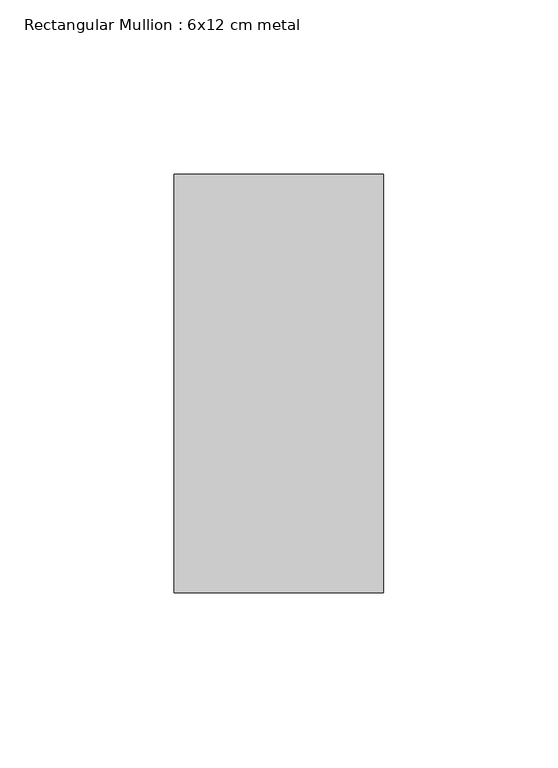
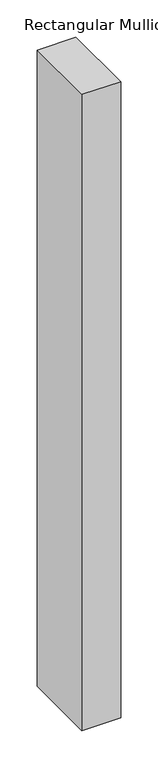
"""IFC4 building model written with IfcOpenShell, lengths in millimetres: member geometry, Rectangular Mullion : 6x12 cm metal."""

from ifc_helpers import new_model, si_unit, frame, origin, place, context, project, spatial, polyline, outline, extrude, source, transform, mapped, element, save


def rectangular_mullion_6x12_cm_metal_22fa1763(model_context):
    return source(origin(), model_context, "Body", "SweptSolid", [
        extrude(outline(polyline([(0.0, 60.0), (0.0, -60.0), (-60.0, -60.0), (-60.0, 60.0), (0.0, 60.0)])), frame((0.0, 0.0, -1044.2423059), z_axis=(0.0, 0.0, 1.0), x_axis=(1.0, 0.0, 0.0)), (0.0, 0.0, 1.0), 1044.2423059),
    ])


if __name__ == "__main__":
    model = new_model("IFC4")
    model_context = context("Model", 3, world=origin())
    ifc_project = project(units=[si_unit("LENGTHUNIT", "METRE", prefix="MILLI")], contexts=[model_context])
    site = spatial("IfcSite", under=ifc_project)
    building = spatial("IfcBuilding", under=site)
    placement = place(None, origin())
    rectangular_mullion_6x12_cm_metal_shape = rectangular_mullion_6x12_cm_metal_22fa1763(model_context)
    element("IfcMember", 1, ObjectType="Rectangular Mullion : 6x12 cm metal", at=placement, inside=building, context=model_context, shape_type="MappedRepresentation", body=[
        mapped(rectangular_mullion_6x12_cm_metal_shape, transform((0.0, 0.0, 0.0), x_axis=(1.0, 0.0, 0.0), y_axis=(0.0, 1.0, 0.0), z_axis=(0.0, 0.0, 1.0))),
    ])
    save(model, "model.ifc")
